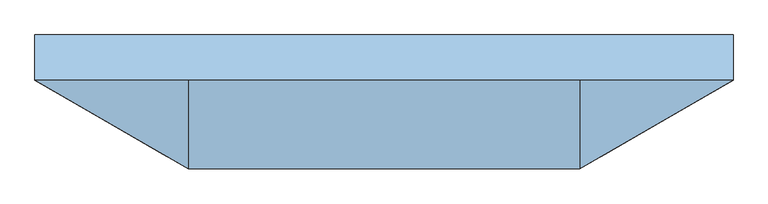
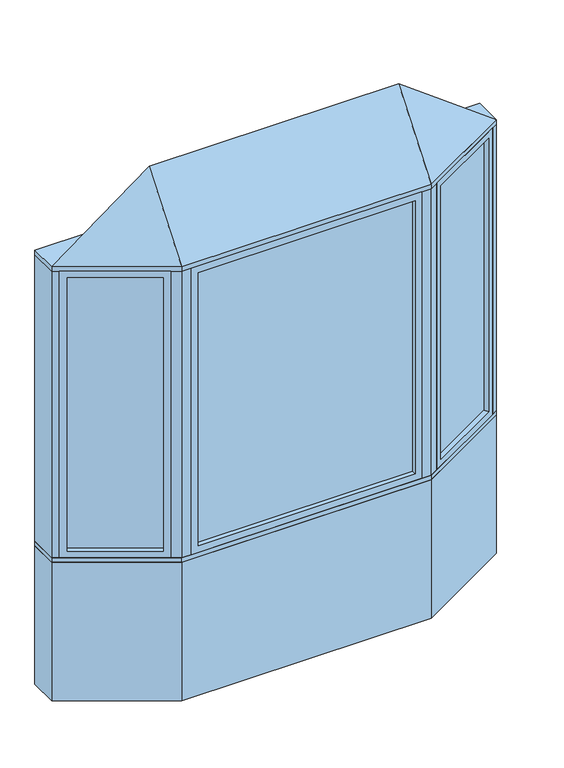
"""IFC4 building model written with IfcOpenShell, lengths in millimetres: window geometry, Pollard_Windows_Tudor Casement Bows and Bays : AML-BAY 30 AFR0616-12-500."""

from ifc_helpers import new_model, si_unit, frame, origin, origin_with_axes, place, context, project, spatial, polyline, outline, extrude, faceted_brep, source, transform, mapped, element, save


def window_90b13a35(model_context):
    return source(origin(), model_context, "Body", "SolidModel", [
        extrude(outline(polyline([(1113.112102, -82.0482469), (710.2320119, -314.6511754), (707.6920119, -310.2517664), (1110.572102, -77.6488379), (1113.112102, -82.0482469)])), frame((0.0, 0.0, 823.1628), z_axis=(0.0, 0.0, 1.0), x_axis=(1.0, 0.0, 0.0)), (0.0, 0.0, 1.0), 1553.6704),
        faceted_brep([(1102.1135794, -88.3982469, 835.8628), (1114.8135794, -110.3952922, 835.8628), (1114.8135794, -110.3952922, 2364.1332), (1102.1135794, -88.3982469, 2364.1332), (1110.572102, -77.6488379, 823.1628), (1113.112102, -82.0482469, 823.1628), (1113.112102, -82.0482469, 2376.8332), (1110.572102, -77.6488379, 2376.8332), (1086.8735794, -62.0017926, 835.8628), (1099.5735794, -83.9988379, 835.8628), (1099.5735794, -83.9988379, 2364.1332), (1086.8735794, -62.0017926, 2364.1332), (1145.8734073, -92.4628922, 799.998), (1117.9334073, -44.0693926, 799.998), (1117.9334073, -44.0693926, 2399.998), (1145.8734073, -92.4628922, 2399.998), (733.9305346, -330.2982207, 2364.1332), (721.2305346, -308.3011754, 2364.1332), (710.2320119, -314.6511754, 2376.8332), (707.6920119, -310.2517664, 2376.8332), (718.6905346, -303.9017664, 2364.1332), (705.9905346, -281.9047211, 2364.1332), (674.9307067, -299.8371211, 2399.998), (702.8707067, -348.2306207, 2399.998), (733.9305346, -330.2982207, 835.8628), (721.2305346, -308.3011754, 835.8628), (710.2320119, -314.6511754, 823.1628), (707.6920119, -310.2517664, 823.1628), (718.6905346, -303.9017664, 835.8628), (705.9905346, -281.9047211, 835.8628), (674.9307067, -299.8371211, 799.998), (702.8707067, -348.2306207, 799.998)], [[[0, 1, 2, 3]], [[4, 5, 6, 7]], [[8, 9, 10, 11]], [[12, 13, 14, 15]], [[3, 2, 16, 17]], [[7, 6, 18, 19]], [[11, 10, 20, 21]], [[15, 14, 22, 23]], [[17, 16, 24, 25]], [[19, 18, 26, 27]], [[21, 20, 28, 29]], [[23, 22, 30, 31]], [[25, 24, 1, 0]], [[5, 26, 18, 6], [3, 17, 25, 0]], [[27, 26, 5, 4]], [[7, 19, 27, 4], [9, 28, 20, 10]], [[29, 28, 9, 8]], [[13, 30, 22, 14], [11, 21, 29, 8]], [[31, 30, 13, 12]], [[15, 23, 31, 12], [1, 24, 16, 2]]]),
        extrude(outline(polyline([(-710.2320119, -314.6511754), (-1113.112102, -82.0482469), (-1110.572102, -77.6488379), (-707.6920119, -310.2517664), (-710.2320119, -314.6511754)])), frame((0.0, 0.0, 823.1628), z_axis=(0.0, 0.0, 1.0), x_axis=(1.0, 0.0, 0.0)), (0.0, 0.0, 1.0), 1553.6704),
        faceted_brep([(-718.6905346, -303.9017664, 2364.1332), (-705.9905346, -281.9047211, 2364.1332), (-705.9905346, -281.9047211, 835.8628), (-718.6905346, -303.9017664, 835.8628), (-710.2320119, -314.6511754, 2376.8332), (-707.6920119, -310.2517664, 2376.8332), (-707.6920119, -310.2517664, 823.1628), (-710.2320119, -314.6511754, 823.1628), (-733.9305346, -330.2982207, 2364.1332), (-721.2305346, -308.3011754, 2364.1332), (-721.2305346, -308.3011754, 835.8628), (-733.9305346, -330.2982207, 835.8628), (-674.9307067, -299.8371211, 2399.998), (-702.8707067, -348.2306207, 2399.998), (-702.8707067, -348.2306207, 799.998), (-674.9307067, -299.8371211, 799.998), (-1086.8735794, -62.0017926, 835.8628), (-1099.5735794, -83.9988379, 835.8628), (-1110.572102, -77.6488379, 823.1628), (-1113.112102, -82.0482469, 823.1628), (-1102.1135794, -88.3982469, 835.8628), (-1114.8135794, -110.3952922, 835.8628), (-1145.8734073, -92.4628922, 799.998), (-1117.9334073, -44.0693926, 799.998), (-1086.8735794, -62.0017926, 2364.1332), (-1099.5735794, -83.9988379, 2364.1332), (-1110.572102, -77.6488379, 2376.8332), (-1113.112102, -82.0482469, 2376.8332), (-1102.1135794, -88.3982469, 2364.1332), (-1114.8135794, -110.3952922, 2364.1332), (-1145.8734073, -92.4628922, 2399.998), (-1117.9334073, -44.0693926, 2399.998)], [[[0, 1, 2, 3]], [[4, 5, 6, 7]], [[8, 9, 10, 11]], [[12, 13, 14, 15]], [[3, 2, 16, 17]], [[7, 6, 18, 19]], [[11, 10, 20, 21]], [[15, 14, 22, 23]], [[17, 16, 24, 25]], [[19, 18, 26, 27]], [[21, 20, 28, 29]], [[23, 22, 30, 31]], [[15, 23, 31, 12], [1, 24, 16, 2]], [[25, 24, 1, 0]], [[5, 26, 18, 6], [3, 17, 25, 0]], [[27, 26, 5, 4]], [[7, 19, 27, 4], [9, 28, 20, 10]], [[29, 28, 9, 8]], [[13, 30, 22, 14], [11, 21, 29, 8]], [[31, 30, 13, 12]]]),
        extrude(outline(polyline([(586.4046365, -347.8306207), (-586.4046365, -347.8306207), (-586.4046365, -342.7506207), (586.4046365, -342.7506207), (586.4046365, -347.8306207)])), frame((0.0, 0.0, 823.1628), z_axis=(0.0, 0.0, 1.0), x_axis=(1.0, 0.0, 0.0)), (0.0, 0.0, 1.0), 1553.6704),
        faceted_brep([(573.7046365, -347.8306207, 835.8628), (573.7046365, -373.2306207, 835.8628), (573.7046365, -373.2306207, 2364.1332), (573.7046365, -347.8306207, 2364.1332), (586.4046365, -342.7506207, 823.1628), (586.4046365, -347.8306207, 823.1628), (586.4046365, -347.8306207, 2376.8332), (586.4046365, -342.7506207, 2376.8332), (573.7046365, -317.3506207, 835.8628), (573.7046365, -342.7506207, 835.8628), (573.7046365, -342.7506207, 2364.1332), (573.7046365, -317.3506207, 2364.1332), (609.5694365, -373.2306207, 799.998), (609.5694365, -317.3506207, 799.998), (609.5694365, -317.3506207, 2399.998), (609.5694365, -373.2306207, 2399.998), (-573.7046365, -373.2306207, 2364.1332), (-573.7046365, -347.8306207, 2364.1332), (-586.4046365, -347.8306207, 2376.8332), (-586.4046365, -342.7506207, 2376.8332), (-573.7046365, -342.7506207, 2364.1332), (-573.7046365, -317.3506207, 2364.1332), (-609.5694365, -317.3506207, 2399.998), (-609.5694365, -373.2306207, 2399.998), (-573.7046365, -373.2306207, 835.8628), (-573.7046365, -347.8306207, 835.8628), (-586.4046365, -347.8306207, 823.1628), (-586.4046365, -342.7506207, 823.1628), (-573.7046365, -342.7506207, 835.8628), (-573.7046365, -317.3506207, 835.8628), (-609.5694365, -317.3506207, 799.998), (-609.5694365, -373.2306207, 799.998)], [[[0, 1, 2, 3]], [[4, 5, 6, 7]], [[8, 9, 10, 11]], [[12, 13, 14, 15]], [[3, 2, 16, 17]], [[7, 6, 18, 19]], [[11, 10, 20, 21]], [[15, 14, 22, 23]], [[17, 16, 24, 25]], [[19, 18, 26, 27]], [[21, 20, 28, 29]], [[23, 22, 30, 31]], [[15, 23, 31, 12], [1, 24, 16, 2]], [[25, 24, 1, 0]], [[5, 26, 18, 6], [3, 17, 25, 0]], [[27, 26, 5, 4]], [[7, 19, 27, 4], [9, 28, 20, 10]], [[29, 28, 9, 8]], [[13, 30, 22, 14], [11, 21, 29, 8]], [[31, 30, 13, 12]]]),
        faceted_brep([(1176.5, -74.7806207, 2425.398), (659.5694365, -373.2306207, 2425.398), (-659.5694365, -373.2306207, 2425.398), (-1176.5, -74.7806207, 2425.398), (-659.5694365, -74.7806207, 2806.398), (659.5694365, -74.7806207, 2806.398)], [[[0, 1, 2, 3]], [[3, 2, 4]], [[2, 1, 5, 4]], [[1, 0, 5]], [[0, 3, 4, 5]]]),
        extrude(outline(polyline([(-1176.5, 77.6193793), (1176.5, 77.6193793), (1176.5, -74.7806207), (659.5694365, -373.2306207), (-659.5694365, -373.2306207), (-1176.5, -74.7806207), (-1176.5, 77.6193793)])), frame((0.0, 0.0, 2399.998), z_axis=(0.0, 0.0, 1.0), x_axis=(1.0, 0.0, 0.0)), (0.0, 0.0, 1.0), 25.4),
        extrude(outline(polyline([(-1176.5, -74.7806207), (-1176.5, 77.6193793), (-1135.6645431, 77.6193793), (-1135.6645431, -74.7806207), (-1145.8734073, -92.4628922), (-1176.5, -74.7806207)])), frame((0.0, 0.0, 799.998), z_axis=(0.0, 0.0, 1.0), x_axis=(1.0, 0.0, 0.0)), (0.0, 0.0, 1.0), 1600.0),
        extrude(outline(polyline([(1176.5, 77.6193793), (1176.5, -74.7806207), (1145.8734073, -92.4628922), (1135.6645431, -74.7806207), (1135.6645431, 77.6193793), (1176.5, 77.6193793)])), frame((0.0, 0.0, 799.998), z_axis=(0.0, 0.0, 1.0), x_axis=(1.0, 0.0, 0.0)), (0.0, 0.0, 1.0), 1600.0),
        extrude(outline(polyline([(659.5694365, -373.2306207), (609.5694365, -373.2306207), (609.5694365, -323.2306207), (646.1719769, -323.2306207), (677.8707067, -304.9293505), (702.8707067, -348.2306207), (659.5694365, -373.2306207)])), frame((0.0, 0.0, 799.998), z_axis=(0.0, 0.0, 1.0), x_axis=(1.0, 0.0, 0.0)), (0.0, 0.0, 1.0), 1600.0),
        extrude(outline(polyline([(-659.5694365, -373.2306207), (-702.8707067, -348.2306207), (-677.8707067, -304.9293505), (-646.1719769, -323.2306207), (-609.5694365, -323.2306207), (-609.5694365, -373.2306207), (-659.5694365, -373.2306207)])), frame((0.0, 0.0, 799.998), z_axis=(0.0, 0.0, 1.0), x_axis=(1.0, 0.0, 0.0)), (0.0, 0.0, 1.0), 1600.0),
        extrude(outline(polyline([(-659.5694365, -373.2306207), (-1176.5, -74.7806207), (-1176.5, 77.6193793), (-1135.6645431, 77.6193793), (-618.7339796, -220.8306207), (618.7339796, -220.8306207), (1135.6645431, 77.6193793), (1176.5, 77.6193793), (1176.5, -74.7806207), (659.5694365, -373.2306207), (-659.5694365, -373.2306207)])), frame((0.0, 0.0, 774.598), z_axis=(0.0, 0.0, 1.0), x_axis=(1.0, 0.0, 0.0)), (0.0, 0.0, 1.0), 25.4),
        extrude(outline(polyline([(-1176.5, -74.7806207), (-1176.5, 77.6193793), (-1135.6645431, 77.6193793), (-618.7339796, -220.8306207), (618.7339796, -220.8306207), (1135.6645431, 77.6193793), (1176.5, 77.6193793), (1176.5, -74.7806207), (659.5694365, -373.2306207), (-659.5694365, -373.2306207), (-1176.5, -74.7806207)])), origin_with_axes(), (0.0, 0.0, 1.0), 774.598),
    ])


if __name__ == "__main__":
    model = new_model("IFC4")
    model_context = context("Model", 3, world=origin())
    ifc_project = project(units=[si_unit("LENGTHUNIT", "METRE", prefix="MILLI")], contexts=[model_context])
    site = spatial("IfcSite", under=ifc_project)
    building = spatial("IfcBuilding", under=site)
    placement = place(None, origin())
    window_shape = window_90b13a35(model_context)
    element("IfcWindow", 1, ObjectType="Pollard_Windows_Tudor Casement Bows and Bays : AML-BAY 30 AFR0616-12-500", at=placement, inside=building, context=model_context, shape_type="MappedRepresentation", body=[
        mapped(window_shape, transform((0.0, 0.0, 0.0), x_axis=(1.0, 0.0, 0.0), y_axis=(0.0, 1.0, 0.0), z_axis=(0.0, 0.0, 1.0))),
    ])
    save(model, "model.ifc")
